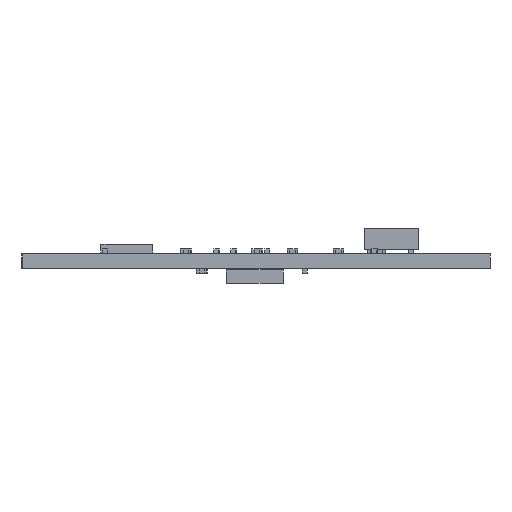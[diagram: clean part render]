
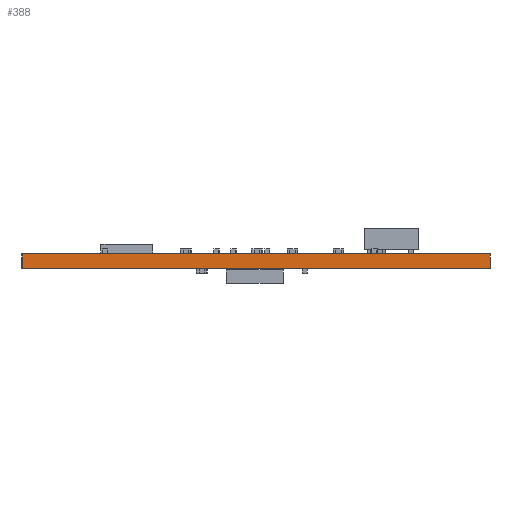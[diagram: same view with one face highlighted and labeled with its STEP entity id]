
A CAD part, front view. The second image highlights one B-rep face of the part: STEP entity #388.
In plain terms, the highlighted planar face has unit normal (0, -1, 0).
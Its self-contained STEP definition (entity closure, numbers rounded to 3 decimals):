
#171 = PLANE('',#172);
#172 = AXIS2_PLACEMENT_3D('',#173,#174,#175);
#173 = CARTESIAN_POINT('',(9.297,42.324,0.798));
#174 = DIRECTION('',(0.,0.,-1.));
#175 = DIRECTION('',(-1.,0.,0.));
#225 = PLANE('',#226);
#226 = AXIS2_PLACEMENT_3D('',#227,#228,#229);
#227 = CARTESIAN_POINT('',(9.297,42.324,0.));
#228 = DIRECTION('',(0.,0.,-1.));
#229 = DIRECTION('',(-1.,0.,0.));
#280 = PLANE('',#281);
#281 = AXIS2_PLACEMENT_3D('',#282,#283,#284);
#282 = CARTESIAN_POINT('',(9.296,18.195,0.));
#283 = DIRECTION('',(1.,0.,0.));
#284 = DIRECTION('',(0.,-1.,0.));
#318 = VERTEX_POINT('',#319);
#319 = CARTESIAN_POINT('',(9.297,13.032,0.798));
#340 = EDGE_CURVE('',#341,#318,#343,.T.);
#341 = VERTEX_POINT('',#342);
#342 = CARTESIAN_POINT('',(9.297,13.032,0.));
#343 = SURFACE_CURVE('',#344,(#348,#355),.PCURVE_S1.);
#344 = LINE('',#345,#346);
#345 = CARTESIAN_POINT('',(9.297,13.032,0.));
#346 = VECTOR('',#347,1.);
#347 = DIRECTION('',(0.,0.,1.));
#348 = PCURVE('',#280,#349);
#349 = DEFINITIONAL_REPRESENTATION('',(#350),#354);
#350 = LINE('',#351,#352);
#351 = CARTESIAN_POINT('',(5.163,0.));
#352 = VECTOR('',#353,1.);
#353 = DIRECTION('',(0.,-1.));
#354 = ( GEOMETRIC_REPRESENTATION_CONTEXT(2) 
PARAMETRIC_REPRESENTATION_CONTEXT() REPRESENTATION_CONTEXT('2D SPACE',''
  ) );
#355 = PCURVE('',#356,#361);
#356 = PLANE('',#357);
#357 = AXIS2_PLACEMENT_3D('',#358,#359,#360);
#358 = CARTESIAN_POINT('',(9.297,13.032,0.));
#359 = DIRECTION('',(0.,-1.,0.));
#360 = DIRECTION('',(-1.,0.,0.));
#361 = DEFINITIONAL_REPRESENTATION('',(#362),#366);
#362 = LINE('',#363,#364);
#363 = CARTESIAN_POINT('',(0.,0.));
#364 = VECTOR('',#365,1.);
#365 = DIRECTION('',(0.,-1.));
#366 = ( GEOMETRIC_REPRESENTATION_CONTEXT(2) 
PARAMETRIC_REPRESENTATION_CONTEXT() REPRESENTATION_CONTEXT('2D SPACE',''
  ) );
#388 = ADVANCED_FACE('',(#389),#356,.T.);
#389 = FACE_BOUND('',#390,.T.);
#390 = EDGE_LOOP('',(#391,#392,#415,#443));
#391 = ORIENTED_EDGE('',*,*,#340,.T.);
#392 = ORIENTED_EDGE('',*,*,#393,.T.);
#393 = EDGE_CURVE('',#318,#394,#396,.T.);
#394 = VERTEX_POINT('',#395);
#395 = CARTESIAN_POINT('',(-17.01,13.032,0.798));
#396 = SURFACE_CURVE('',#397,(#401,#408),.PCURVE_S1.);
#397 = LINE('',#398,#399);
#398 = CARTESIAN_POINT('',(9.297,13.032,0.798));
#399 = VECTOR('',#400,1.);
#400 = DIRECTION('',(-1.,0.,0.));
#401 = PCURVE('',#356,#402);
#402 = DEFINITIONAL_REPRESENTATION('',(#403),#407);
#403 = LINE('',#404,#405);
#404 = CARTESIAN_POINT('',(0.,-0.798));
#405 = VECTOR('',#406,1.);
#406 = DIRECTION('',(1.,0.));
#407 = ( GEOMETRIC_REPRESENTATION_CONTEXT(2) 
PARAMETRIC_REPRESENTATION_CONTEXT() REPRESENTATION_CONTEXT('2D SPACE',''
  ) );
#408 = PCURVE('',#171,#409);
#409 = DEFINITIONAL_REPRESENTATION('',(#410),#414);
#410 = LINE('',#411,#412);
#411 = CARTESIAN_POINT('',(0.,-29.293));
#412 = VECTOR('',#413,1.);
#413 = DIRECTION('',(1.,0.));
#414 = ( GEOMETRIC_REPRESENTATION_CONTEXT(2) 
PARAMETRIC_REPRESENTATION_CONTEXT() REPRESENTATION_CONTEXT('2D SPACE',''
  ) );
#415 = ORIENTED_EDGE('',*,*,#416,.F.);
#416 = EDGE_CURVE('',#417,#394,#419,.T.);
#417 = VERTEX_POINT('',#418);
#418 = CARTESIAN_POINT('',(-17.01,13.032,0.));
#419 = SURFACE_CURVE('',#420,(#424,#431),.PCURVE_S1.);
#420 = LINE('',#421,#422);
#421 = CARTESIAN_POINT('',(-17.01,13.032,0.));
#422 = VECTOR('',#423,1.);
#423 = DIRECTION('',(0.,0.,1.));
#424 = PCURVE('',#356,#425);
#425 = DEFINITIONAL_REPRESENTATION('',(#426),#430);
#426 = LINE('',#427,#428);
#427 = CARTESIAN_POINT('',(26.307,0.));
#428 = VECTOR('',#429,1.);
#429 = DIRECTION('',(0.,-1.));
#430 = ( GEOMETRIC_REPRESENTATION_CONTEXT(2) 
PARAMETRIC_REPRESENTATION_CONTEXT() REPRESENTATION_CONTEXT('2D SPACE',''
  ) );
#431 = PCURVE('',#432,#437);
#432 = PLANE('',#433);
#433 = AXIS2_PLACEMENT_3D('',#434,#435,#436);
#434 = CARTESIAN_POINT('',(-17.01,13.032,0.));
#435 = DIRECTION('',(-1.,0.,0.));
#436 = DIRECTION('',(0.,1.,0.));
#437 = DEFINITIONAL_REPRESENTATION('',(#438),#442);
#438 = LINE('',#439,#440);
#439 = CARTESIAN_POINT('',(0.,0.));
#440 = VECTOR('',#441,1.);
#441 = DIRECTION('',(0.,-1.));
#442 = ( GEOMETRIC_REPRESENTATION_CONTEXT(2) 
PARAMETRIC_REPRESENTATION_CONTEXT() REPRESENTATION_CONTEXT('2D SPACE',''
  ) );
#443 = ORIENTED_EDGE('',*,*,#444,.F.);
#444 = EDGE_CURVE('',#341,#417,#445,.T.);
#445 = SURFACE_CURVE('',#446,(#450,#457),.PCURVE_S1.);
#446 = LINE('',#447,#448);
#447 = CARTESIAN_POINT('',(9.297,13.032,0.));
#448 = VECTOR('',#449,1.);
#449 = DIRECTION('',(-1.,0.,0.));
#450 = PCURVE('',#356,#451);
#451 = DEFINITIONAL_REPRESENTATION('',(#452),#456);
#452 = LINE('',#453,#454);
#453 = CARTESIAN_POINT('',(0.,0.));
#454 = VECTOR('',#455,1.);
#455 = DIRECTION('',(1.,0.));
#456 = ( GEOMETRIC_REPRESENTATION_CONTEXT(2) 
PARAMETRIC_REPRESENTATION_CONTEXT() REPRESENTATION_CONTEXT('2D SPACE',''
  ) );
#457 = PCURVE('',#225,#458);
#458 = DEFINITIONAL_REPRESENTATION('',(#459),#463);
#459 = LINE('',#460,#461);
#460 = CARTESIAN_POINT('',(0.,-29.293));
#461 = VECTOR('',#462,1.);
#462 = DIRECTION('',(1.,0.));
#463 = ( GEOMETRIC_REPRESENTATION_CONTEXT(2) 
PARAMETRIC_REPRESENTATION_CONTEXT() REPRESENTATION_CONTEXT('2D SPACE',''
  ) );
